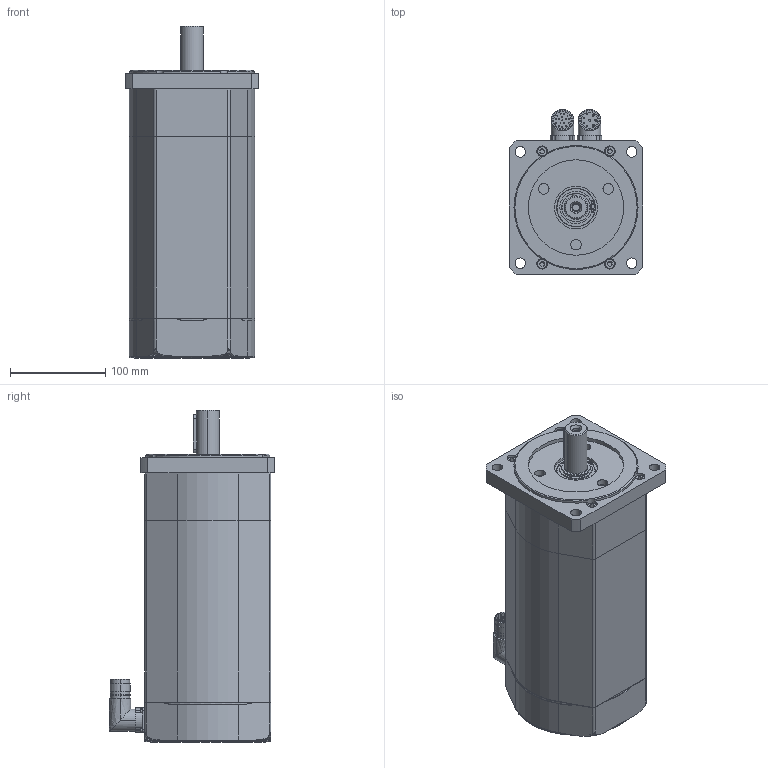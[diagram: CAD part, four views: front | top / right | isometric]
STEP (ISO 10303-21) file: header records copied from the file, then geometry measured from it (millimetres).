
FILE_DESCRIPTION (( 'STEP AP203' ), '1' );
FILE_NAME ('SSAX140M_CF.STEP', '2015-09-10T13:41:12', ( 'Tecnico motori' ), ( '' ), 'SwSTEP 2.0', 'SolidWorks 2010', '' );
FILE_SCHEMA (( 'CONFIG_CONTROL_DESIGN' ));
Length unit declared in the file: millimetre
Products named in the file (1): SSAX140M_CF
Bounding box: 140 x 173 x 347.85 mm (x, y, z)
Surface area: 208578 mm2 (no closed solid volume)
Topology: 0 solids, 33 shells, 461 faces, 1307 edges, 907 vertices
Faces by surface type: cylinder 216, plane 187, cone 28, torus 24, bspline 6
Entity records: 16165 total; most frequent: CARTESIAN_POINT 3756, DIRECTION 2782, ORIENTED_EDGE 2250, EDGE_CURVE 1307, AXIS2_PLACEMENT_3D 1091, VERTEX_POINT 907, CIRCLE 635, VECTOR 600
